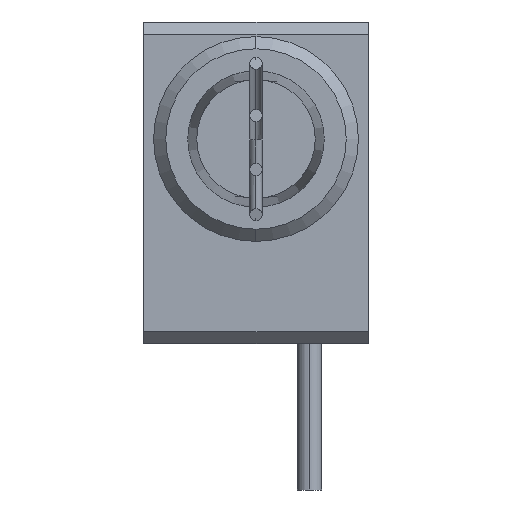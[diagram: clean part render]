
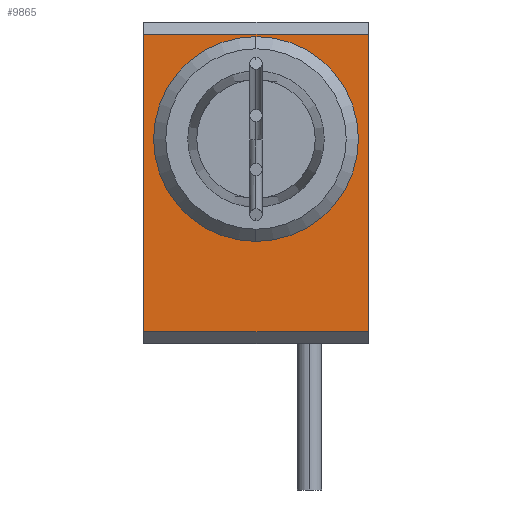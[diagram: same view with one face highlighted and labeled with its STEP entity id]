
A CAD part, left-side view. The second image highlights one B-rep face of the part: STEP entity #9865.
In plain terms, the highlighted planar face has unit normal (-1, 0, 0).
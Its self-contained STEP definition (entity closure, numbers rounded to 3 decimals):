
#137 = VERTEX_POINT ( 'NONE', #3895 ) ;
#177 = CARTESIAN_POINT ( 'NONE',  ( -5., 2.3, 0.9 ) ) ;
#246 = DIRECTION ( 'NONE',  ( -1., 0., 0. ) ) ;
#896 = VERTEX_POINT ( 'NONE', #7807 ) ;
#1207 = FACE_OUTER_BOUND ( 'NONE', #1323, .T. ) ;
#1323 = EDGE_LOOP ( 'NONE', ( #9073, #8597, #5527, #11779 ) ) ;
#1354 = ORIENTED_EDGE ( 'NONE', *, *, #8695, .F. ) ;
#1372 = LINE ( 'NONE', #8703, #6345 ) ;
#1478 = EDGE_LOOP ( 'NONE', ( #1354, #8810 ) ) ;
#1540 = CARTESIAN_POINT ( 'NONE',  ( -5., 4.6, 3.3 ) ) ;
#1889 = DIRECTION ( 'NONE',  ( 0., 0., -1. ) ) ;
#1922 = VECTOR ( 'NONE', #3368, 1000. ) ;
#2026 = DIRECTION ( 'NONE',  ( 0., 0., 1. ) ) ;
#2607 = EDGE_CURVE ( 'NONE', #137, #10849, #1372, .T. ) ;
#2649 = LINE ( 'NONE', #5587, #11462 ) ;
#2680 = EDGE_CURVE ( 'NONE', #3149, #896, #2649, .T. ) ;
#3149 = VERTEX_POINT ( 'NONE', #10318 ) ;
#3368 = DIRECTION ( 'NONE',  ( 0., 0., 1. ) ) ;
#3602 = DIRECTION ( 'NONE',  ( 0., 0., 1. ) ) ;
#3636 = CARTESIAN_POINT ( 'NONE',  ( -5., 0., 3.3 ) ) ;
#3804 = DIRECTION ( 'NONE',  ( 0., 1., 0. ) ) ;
#3895 = CARTESIAN_POINT ( 'NONE',  ( -5., 4.6, -3.05 ) ) ;
#3950 = DIRECTION ( 'NONE',  ( 0., 0., 1. ) ) ;
#4135 = VECTOR ( 'NONE', #3602, 1000. ) ;
#4145 = DIRECTION ( 'NONE',  ( 0., -1., 0. ) ) ;
#4654 = DIRECTION ( 'NONE',  ( 1., 0., 0. ) ) ;
#4978 = LINE ( 'NONE', #3636, #4135 ) ;
#5263 = CARTESIAN_POINT ( 'NONE',  ( -5., 2.3, 3. ) ) ;
#5527 = ORIENTED_EDGE ( 'NONE', *, *, #6111, .T. ) ;
#5587 = CARTESIAN_POINT ( 'NONE',  ( -5., 4.6, 3.05 ) ) ;
#5789 = AXIS2_PLACEMENT_3D ( 'NONE', #6603, #246, #3950 ) ;
#6111 = EDGE_CURVE ( 'NONE', #10849, #3149, #4978, .T. ) ;
#6328 = FACE_BOUND ( 'NONE', #1478, .T. ) ;
#6345 = VECTOR ( 'NONE', #4145, 1000. ) ;
#6603 = CARTESIAN_POINT ( 'NONE',  ( -5., 2.3, 0.9 ) ) ;
#6658 = CARTESIAN_POINT ( 'NONE',  ( -5., 2.3, -1.2 ) ) ;
#7095 = VERTEX_POINT ( 'NONE', #6658 ) ;
#7571 = DIRECTION ( 'NONE',  ( -1., 0., 0. ) ) ;
#7746 = EDGE_CURVE ( 'NONE', #11645, #7095, #11332, .T. ) ;
#7807 = CARTESIAN_POINT ( 'NONE',  ( -5., 4.6, 3.05 ) ) ;
#8333 = CIRCLE ( 'NONE', #9414, 2.1 ) ;
#8597 = ORIENTED_EDGE ( 'NONE', *, *, #2607, .T. ) ;
#8695 = EDGE_CURVE ( 'NONE', #7095, #11645, #8333, .T. ) ;
#8703 = CARTESIAN_POINT ( 'NONE',  ( -5., 4.6, -3.05 ) ) ;
#8810 = ORIENTED_EDGE ( 'NONE', *, *, #7746, .F. ) ;
#9073 = ORIENTED_EDGE ( 'NONE', *, *, #10658, .F. ) ;
#9414 = AXIS2_PLACEMENT_3D ( 'NONE', #177, #7571, #2026 ) ;
#9865 = ADVANCED_FACE ( 'NONE', ( #6328, #1207 ), #11756, .F. ) ;
#10318 = CARTESIAN_POINT ( 'NONE',  ( -5., 0., 3.05 ) ) ;
#10562 = AXIS2_PLACEMENT_3D ( 'NONE', #10957, #4654, #1889 ) ;
#10658 = EDGE_CURVE ( 'NONE', #137, #896, #11571, .T. ) ;
#10849 = VERTEX_POINT ( 'NONE', #11012 ) ;
#10957 = CARTESIAN_POINT ( 'NONE',  ( -5., 4.6, 3.3 ) ) ;
#11012 = CARTESIAN_POINT ( 'NONE',  ( -5., 0., -3.05 ) ) ;
#11332 = CIRCLE ( 'NONE', #5789, 2.1 ) ;
#11462 = VECTOR ( 'NONE', #3804, 1000. ) ;
#11571 = LINE ( 'NONE', #1540, #1922 ) ;
#11645 = VERTEX_POINT ( 'NONE', #5263 ) ;
#11756 = PLANE ( 'NONE',  #10562 ) ;
#11779 = ORIENTED_EDGE ( 'NONE', *, *, #2680, .T. ) ;
